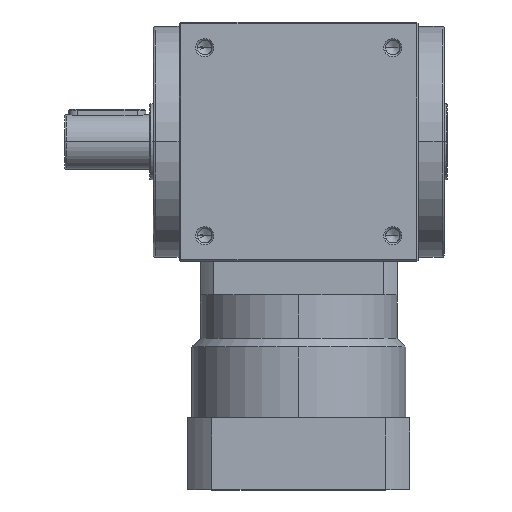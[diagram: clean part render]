
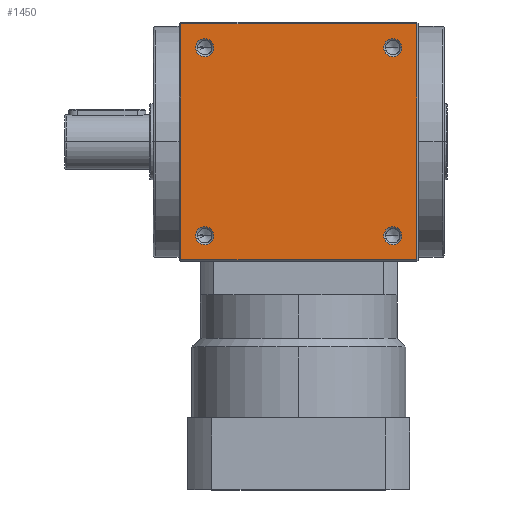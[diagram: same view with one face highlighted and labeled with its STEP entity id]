
A CAD part, top view. The second image highlights one B-rep face of the part: STEP entity #1450.
In plain terms, the highlighted planar face has unit normal (0, 0, 1).
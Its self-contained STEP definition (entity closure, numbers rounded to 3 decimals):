
#11 = DIRECTION ( 'NONE',  ( -1., 0., 0. ) ) ;
#15 = VERTEX_POINT ( 'NONE', #2611 ) ;
#70 = CARTESIAN_POINT ( 'NONE',  ( 0., 69., 70. ) ) ;
#81 = AXIS2_PLACEMENT_3D ( 'NONE', #3072, #9608, #3953 ) ;
#132 = EDGE_CURVE ( 'NONE', #7678, #5634, #1536, .T. ) ;
#151 = EDGE_CURVE ( 'NONE', #5634, #5944, #5835, .T. ) ;
#169 = EDGE_CURVE ( 'NONE', #5944, #8598, #6186, .T. ) ;
#206 = EDGE_CURVE ( 'NONE', #8598, #7678, #9706, .T. ) ;
#246 = DIRECTION ( 'NONE',  ( 0., 1., 0. ) ) ;
#372 = CARTESIAN_POINT ( 'NONE',  ( 69., 0., 70. ) ) ;
#483 = EDGE_LOOP ( 'NONE', ( #843, #10095, #575, #12016 ) ) ;
#502 = AXIS2_PLACEMENT_3D ( 'NONE', #7328, #1794, #8271 ) ;
#575 = ORIENTED_EDGE ( 'NONE', *, *, #169, .T. ) ;
#622 = CARTESIAN_POINT ( 'NONE',  ( 55., -55., 70. ) ) ;
#657 = AXIS2_PLACEMENT_3D ( 'NONE', #9071, #3465, #10016 ) ;
#721 = CARTESIAN_POINT ( 'NONE',  ( -60.25, 55., 70. ) ) ;
#747 = AXIS2_PLACEMENT_3D ( 'NONE', #7061, #1515, #8003 ) ;
#756 = CARTESIAN_POINT ( 'NONE',  ( -55., 55., 70. ) ) ;
#843 = ORIENTED_EDGE ( 'NONE', *, *, #132, .T. ) ;
#847 = VERTEX_POINT ( 'NONE', #3096 ) ;
#957 = CARTESIAN_POINT ( 'NONE',  ( -69., -69., 70. ) ) ;
#1228 = VERTEX_POINT ( 'NONE', #2981 ) ;
#1418 = EDGE_LOOP ( 'NONE', ( #10866, #2895 ) ) ;
#1450 = ADVANCED_FACE ( 'NONE', ( #2587, #2600, #4861, #10932, #2564 ), #7637, .F. ) ;
#1515 = DIRECTION ( 'NONE',  ( 0., 0., 1. ) ) ;
#1536 = LINE ( 'NONE', #372, #11881 ) ;
#1557 = VECTOR ( 'NONE', #11000, 1000. ) ;
#1575 = DIRECTION ( 'NONE',  ( 1., 0., 0. ) ) ;
#1589 = CIRCLE ( 'NONE', #7288, 5.25 ) ;
#1643 = EDGE_LOOP ( 'NONE', ( #5330, #4792 ) ) ;
#1695 = DIRECTION ( 'NONE',  ( 1., 0., 0. ) ) ;
#1776 = CIRCLE ( 'NONE', #81, 5.25 ) ;
#1794 = DIRECTION ( 'NONE',  ( 0., 0., 1. ) ) ;
#2030 = CARTESIAN_POINT ( 'NONE',  ( -69., 69., 70. ) ) ;
#2040 = EDGE_LOOP ( 'NONE', ( #3572, #8228 ) ) ;
#2542 = CARTESIAN_POINT ( 'NONE',  ( 69., -69., 70. ) ) ;
#2564 = FACE_BOUND ( 'NONE', #2040, .T. ) ;
#2587 = FACE_OUTER_BOUND ( 'NONE', #483, .T. ) ;
#2600 = FACE_BOUND ( 'NONE', #1418, .T. ) ;
#2611 = CARTESIAN_POINT ( 'NONE',  ( -49.75, -55., 70. ) ) ;
#2781 = CARTESIAN_POINT ( 'NONE',  ( 49.75, 55., 70. ) ) ;
#2895 = ORIENTED_EDGE ( 'NONE', *, *, #8698, .F. ) ;
#2981 = CARTESIAN_POINT ( 'NONE',  ( 60.25, -55., 70. ) ) ;
#3072 = CARTESIAN_POINT ( 'NONE',  ( 55., -55., 70. ) ) ;
#3096 = CARTESIAN_POINT ( 'NONE',  ( -49.75, 55., 70. ) ) ;
#3402 = DIRECTION ( 'NONE',  ( 0., 0., 1. ) ) ;
#3465 = DIRECTION ( 'NONE',  ( 0., 0., 1. ) ) ;
#3572 = ORIENTED_EDGE ( 'NONE', *, *, #10157, .F. ) ;
#3953 = DIRECTION ( 'NONE',  ( 1., 0., 0. ) ) ;
#4325 = CARTESIAN_POINT ( 'NONE',  ( 55., 55., 70. ) ) ;
#4792 = ORIENTED_EDGE ( 'NONE', *, *, #8464, .F. ) ;
#4861 = FACE_BOUND ( 'NONE', #8213, .T. ) ;
#5090 = VECTOR ( 'NONE', #8235, 1000. ) ;
#5245 = CIRCLE ( 'NONE', #747, 5.25 ) ;
#5258 = DIRECTION ( 'NONE',  ( 1., 0., 0. ) ) ;
#5287 = CARTESIAN_POINT ( 'NONE',  ( 60.25, 55., 70. ) ) ;
#5330 = ORIENTED_EDGE ( 'NONE', *, *, #10130, .F. ) ;
#5456 = CARTESIAN_POINT ( 'NONE',  ( 69., 69., 70. ) ) ;
#5473 = CARTESIAN_POINT ( 'NONE',  ( -60.25, -55., 70. ) ) ;
#5634 = VERTEX_POINT ( 'NONE', #5456 ) ;
#5698 = VERTEX_POINT ( 'NONE', #7526 ) ;
#5835 = LINE ( 'NONE', #70, #10116 ) ;
#5944 = VERTEX_POINT ( 'NONE', #2030 ) ;
#6186 = LINE ( 'NONE', #7272, #5090 ) ;
#6264 = VERTEX_POINT ( 'NONE', #2781 ) ;
#7061 = CARTESIAN_POINT ( 'NONE',  ( -55., 55., 70. ) ) ;
#7120 = DIRECTION ( 'NONE',  ( 0., 0., 1. ) ) ;
#7246 = DIRECTION ( 'NONE',  ( 0., 0., 1. ) ) ;
#7272 = CARTESIAN_POINT ( 'NONE',  ( -69., 0., 70. ) ) ;
#7288 = AXIS2_PLACEMENT_3D ( 'NONE', #756, #7246, #1695 ) ;
#7328 = CARTESIAN_POINT ( 'NONE',  ( -55., -55., 70. ) ) ;
#7361 = AXIS2_PLACEMENT_3D ( 'NONE', #4325, #10940, #5258 ) ;
#7398 = AXIS2_PLACEMENT_3D ( 'NONE', #9010, #3402, #9951 ) ;
#7416 = AXIS2_PLACEMENT_3D ( 'NONE', #622, #7120, #1575 ) ;
#7526 = CARTESIAN_POINT ( 'NONE',  ( 49.75, -55., 70. ) ) ;
#7637 = PLANE ( 'NONE',  #11784 ) ;
#7678 = VERTEX_POINT ( 'NONE', #2542 ) ;
#7816 = CIRCLE ( 'NONE', #7416, 5.25 ) ;
#8003 = DIRECTION ( 'NONE',  ( 1., 0., 0. ) ) ;
#8213 = EDGE_LOOP ( 'NONE', ( #8298, #8220 ) ) ;
#8220 = ORIENTED_EDGE ( 'NONE', *, *, #8541, .F. ) ;
#8228 = ORIENTED_EDGE ( 'NONE', *, *, #8394, .F. ) ;
#8235 = DIRECTION ( 'NONE',  ( 0., -1., 0. ) ) ;
#8271 = DIRECTION ( 'NONE',  ( 1., 0., 0. ) ) ;
#8298 = ORIENTED_EDGE ( 'NONE', *, *, #10099, .F. ) ;
#8394 = EDGE_CURVE ( 'NONE', #8911, #847, #5245, .T. ) ;
#8464 = EDGE_CURVE ( 'NONE', #6264, #10902, #9851, .T. ) ;
#8541 = EDGE_CURVE ( 'NONE', #10471, #15, #10441, .T. ) ;
#8598 = VERTEX_POINT ( 'NONE', #957 ) ;
#8698 = EDGE_CURVE ( 'NONE', #5698, #1228, #1776, .T. ) ;
#8911 = VERTEX_POINT ( 'NONE', #721 ) ;
#9010 = CARTESIAN_POINT ( 'NONE',  ( -55., -55., 70. ) ) ;
#9071 = CARTESIAN_POINT ( 'NONE',  ( 55., 55., 70. ) ) ;
#9415 = CIRCLE ( 'NONE', #7361, 5.25 ) ;
#9435 = CIRCLE ( 'NONE', #7398, 5.25 ) ;
#9608 = DIRECTION ( 'NONE',  ( 0., 0., 1. ) ) ;
#9706 = LINE ( 'NONE', #11039, #1557 ) ;
#9851 = CIRCLE ( 'NONE', #657, 5.25 ) ;
#9951 = DIRECTION ( 'NONE',  ( 1., 0., 0. ) ) ;
#10016 = DIRECTION ( 'NONE',  ( 1., 0., 0. ) ) ;
#10095 = ORIENTED_EDGE ( 'NONE', *, *, #151, .T. ) ;
#10097 = EDGE_CURVE ( 'NONE', #1228, #5698, #7816, .T. ) ;
#10099 = EDGE_CURVE ( 'NONE', #15, #10471, #9435, .T. ) ;
#10116 = VECTOR ( 'NONE', #11, 1000. ) ;
#10130 = EDGE_CURVE ( 'NONE', #10902, #6264, #9415, .T. ) ;
#10157 = EDGE_CURVE ( 'NONE', #847, #8911, #1589, .T. ) ;
#10441 = CIRCLE ( 'NONE', #502, 5.25 ) ;
#10471 = VERTEX_POINT ( 'NONE', #5473 ) ;
#10866 = ORIENTED_EDGE ( 'NONE', *, *, #10097, .F. ) ;
#10902 = VERTEX_POINT ( 'NONE', #5287 ) ;
#10932 = FACE_BOUND ( 'NONE', #1643, .T. ) ;
#10940 = DIRECTION ( 'NONE',  ( 0., 0., 1. ) ) ;
#11000 = DIRECTION ( 'NONE',  ( 1., 0., 0. ) ) ;
#11039 = CARTESIAN_POINT ( 'NONE',  ( 0., -69., 70. ) ) ;
#11756 = DIRECTION ( 'NONE',  ( -1., 0., 0. ) ) ;
#11780 = DIRECTION ( 'NONE',  ( 0., 0., -1. ) ) ;
#11784 = AXIS2_PLACEMENT_3D ( 'NONE', #11820, #11780, #11756 ) ;
#11820 = CARTESIAN_POINT ( 'NONE',  ( 0., 0., 70. ) ) ;
#11881 = VECTOR ( 'NONE', #246, 1000. ) ;
#12016 = ORIENTED_EDGE ( 'NONE', *, *, #206, .T. ) ;
